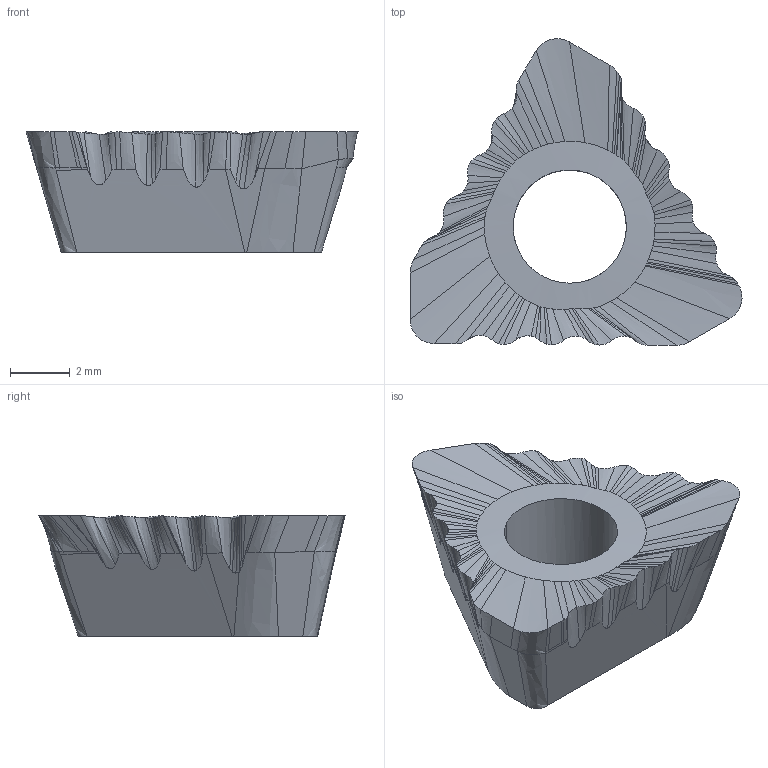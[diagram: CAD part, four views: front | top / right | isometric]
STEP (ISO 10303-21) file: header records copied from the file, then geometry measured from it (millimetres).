
FILE_DESCRIPTION(('CATIA V5 STEP','CAx-IF Rec.Pracs.--- Model Styling and Organization---1.2---2011-12-15'),'2;1');
FILE_NAME('N:\data\isr\design\special1\users\NATALY_B\Tal\NPA\3340519\HM390 TPKT 1003PDR-FW.stp','2018-07-01T11:45:10+00:00',('none'),('none'),'CATIA Version 5 Release 21 SP 5 (IN-10)','CATIA V5 STEP AP214','none');
FILE_SCHEMA(('AUTOMOTIVE_DESIGN { 1 0 10303 214 1 1 1 1 }'));
Length unit declared in the file: millimetre
Products named in the file (1): HM390 TPKT 1003PDR-FW
Bounding box: 11.15 x 10.3 x 4.06 mm (x, y, z)
Volume: 181.4 mm3; surface area: 267.8 mm2
Topology: 1 solids, 1 shells, 254 faces, 737 edges, 486 vertices
Faces by surface type: bspline 234, plane 18, cylinder 2
Entity records: 18397 total; most frequent: CARTESIAN_POINT 13951, ORIENTED_EDGE 1292, B_SPLINE_CURVE_WITH_KNOTS 703, EDGE_CURVE 646, VERTEX_POINT 394, EDGE_LOOP 256, ADVANCED_FACE 254, FACE_OUTER_BOUND 254
